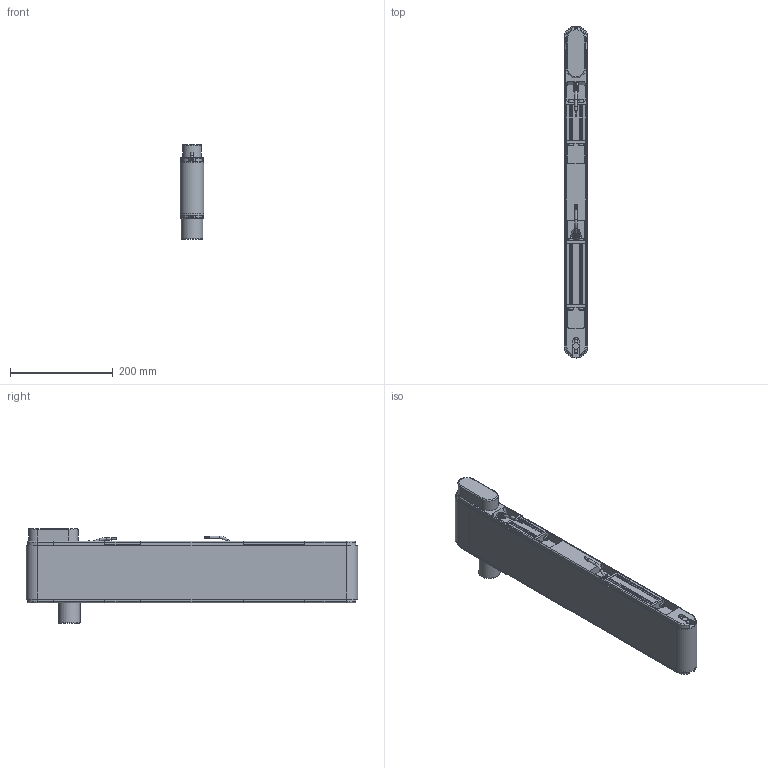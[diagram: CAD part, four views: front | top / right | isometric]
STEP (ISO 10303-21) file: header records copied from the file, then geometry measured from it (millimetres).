
FILE_DESCRIPTION(/* description */ (''),/* implementation_level */ '2;1');
FILE_NAME(/* name */ 'G:\DATEN\CAD\Förderband\Marketing\3D-Modelle (Standard)\FR-40-120-Q\FR-40-120-Q-DL-600-300-K (Motorendrohr 40 mm).stp',/* time_stamp */ '2019-05-09T08:50:11+02:00',/* author */ ('melanie.ochs'),/* organization */ (''),/* preprocessor_version */ 'ST-DEVELOPER v17',/* originating_system */ 'Autodesk Inventor 2019',/* authorisation */ '');
FILE_SCHEMA (('CONFIG_CONTROL_DESIGN'));
Length unit declared in the file: centimetre
Products named in the file (1): FR-40-120-Q-DL-600-300-K (Motorendrohr 40 mm)
Bounding box: 46.4 x 646.4 x 185 mm (x, y, z)
Volume: 2480401 mm3; surface area: 746665.4 mm2
Topology: 23 solids, 25 shells, 1351 faces, 3803 edges, 2596 vertices
Faces by surface type: plane 683, cylinder 487, cone 84, bspline 61, torus 36
Full cylindrical faces by diameter (mm): 1 x6, 1.5 x5, 3.242 x4, 4 x2, 4.3 x8, 4.65 x1, 4.917 x1, 5 x30, 5.5 x16, 6 x4, 6.5 x1, 6.773 x2, 6.917 x4, 8 x3, 8.5 x16, 8.773 x2, 10 x2, 11 x2, 12 x3, 20 x1, 25 x2, 28 x4, 40.917 x1, 42 x1, 44 x2
Entity records: 46435 total; most frequent: CARTESIAN_POINT 9466, ORIENTED_EDGE 7564, DIRECTION 7381, EDGE_CURVE 3782, AXIS2_PLACEMENT_3D 2645, VERTEX_POINT 2596, LINE 2091, VECTOR 2091
